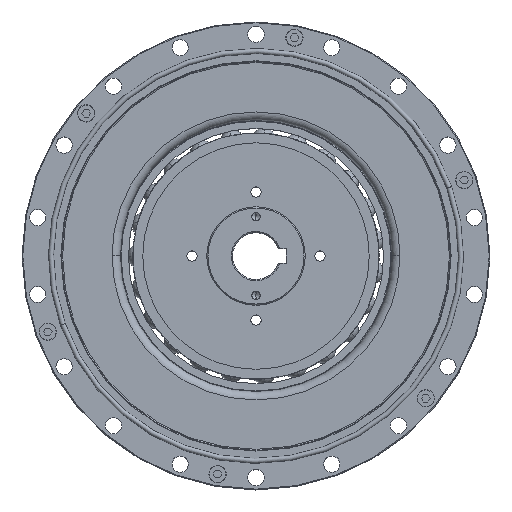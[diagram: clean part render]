
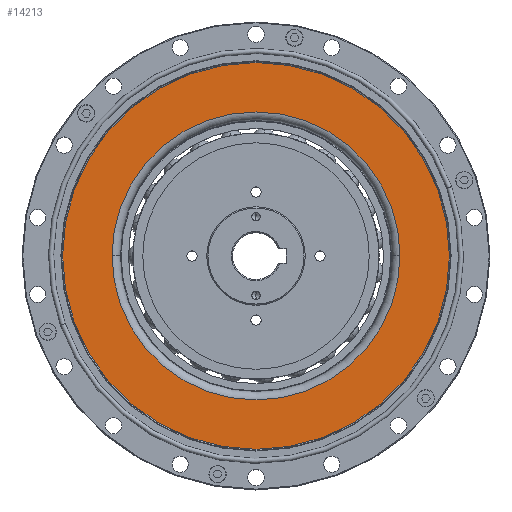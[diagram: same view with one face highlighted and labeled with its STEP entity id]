
A CAD part, top view. The second image highlights one B-rep face of the part: STEP entity #14213.
In plain terms, the highlighted planar face has unit normal (0, 0, 1).
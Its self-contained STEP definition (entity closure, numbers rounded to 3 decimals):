
#382 = CARTESIAN_POINT ( 'NONE',  ( 0., 0., -3.523 ) ) ;
#2235 = DIRECTION ( 'NONE',  ( 1., 0., 0. ) ) ;
#2560 = VERTEX_POINT ( 'NONE', #17796 ) ;
#2894 = CARTESIAN_POINT ( 'NONE',  ( 0., 78.55, -3.523 ) ) ;
#3805 = ORIENTED_EDGE ( 'NONE', *, *, #8291, .T. ) ;
#4248 = AXIS2_PLACEMENT_3D ( 'NONE', #382, #13285, #2235 ) ;
#4809 = ORIENTED_EDGE ( 'NONE', *, *, #17394, .F. ) ;
#5021 = CARTESIAN_POINT ( 'NONE',  ( 78.55, 0., -3.523 ) ) ;
#5144 = CARTESIAN_POINT ( 'NONE',  ( 0., 0., -3.523 ) ) ;
#5189 = AXIS2_PLACEMENT_3D ( 'NONE', #7098, #19928, #8951 ) ;
#5543 = EDGE_CURVE ( 'NONE', #2560, #10496, #14806, .T. ) ;
#6992 = DIRECTION ( 'NONE',  ( 1., 0., 0. ) ) ;
#7098 = CARTESIAN_POINT ( 'NONE',  ( 0., 0., -3.523 ) ) ;
#7284 = VERTEX_POINT ( 'NONE', #9513 ) ;
#7423 = CARTESIAN_POINT ( 'NONE',  ( 0., 0., -3.523 ) ) ;
#7460 = CIRCLE ( 'NONE', #4248, 78.55 ) ;
#8291 = EDGE_CURVE ( 'NONE', #10496, #2560, #7460, .T. ) ;
#8951 = DIRECTION ( 'NONE',  ( 1., 0., 0. ) ) ;
#9278 = DIRECTION ( 'NONE',  ( 1., 0., 0. ) ) ;
#9513 = CARTESIAN_POINT ( 'NONE',  ( -58.474, 0., -3.523 ) ) ;
#10380 = DIRECTION ( 'NONE',  ( 0., 0., -1. ) ) ;
#10496 = VERTEX_POINT ( 'NONE', #5021 ) ;
#10569 = FACE_OUTER_BOUND ( 'NONE', #21038, .T. ) ;
#12246 = AXIS2_PLACEMENT_3D ( 'NONE', #7423, #20259, #9278 ) ;
#12957 = VERTEX_POINT ( 'NONE', #18688 ) ;
#13285 = DIRECTION ( 'NONE',  ( 0., 0., 1. ) ) ;
#14213 = ADVANCED_FACE ( 'NONE', ( #20298, #10569 ), #17676, .F. ) ;
#14806 = CIRCLE ( 'NONE', #15646, 78.55 ) ;
#15646 = AXIS2_PLACEMENT_3D ( 'NONE', #5144, #17964, #6992 ) ;
#16058 = ORIENTED_EDGE ( 'NONE', *, *, #22875, .F. ) ;
#16807 = CIRCLE ( 'NONE', #12246, 58.474 ) ;
#17009 = CIRCLE ( 'NONE', #5189, 58.474 ) ;
#17394 = EDGE_CURVE ( 'NONE', #12957, #7284, #17009, .T. ) ;
#17676 = PLANE ( 'NONE',  #21866 ) ;
#17796 = CARTESIAN_POINT ( 'NONE',  ( -78.55, 0., -3.523 ) ) ;
#17964 = DIRECTION ( 'NONE',  ( 0., 0., 1. ) ) ;
#18688 = CARTESIAN_POINT ( 'NONE',  ( 58.474, 0., -3.523 ) ) ;
#19928 = DIRECTION ( 'NONE',  ( 0., 0., 1. ) ) ;
#20259 = DIRECTION ( 'NONE',  ( 0., 0., 1. ) ) ;
#20298 = FACE_BOUND ( 'NONE', #21537, .T. ) ;
#21038 = EDGE_LOOP ( 'NONE', ( #3805, #21845 ) ) ;
#21537 = EDGE_LOOP ( 'NONE', ( #4809, #16058 ) ) ;
#21845 = ORIENTED_EDGE ( 'NONE', *, *, #5543, .T. ) ;
#21866 = AXIS2_PLACEMENT_3D ( 'NONE', #2894, #10380, #23204 ) ;
#22875 = EDGE_CURVE ( 'NONE', #7284, #12957, #16807, .T. ) ;
#23204 = DIRECTION ( 'NONE',  ( -1., 0., 0. ) ) ;
